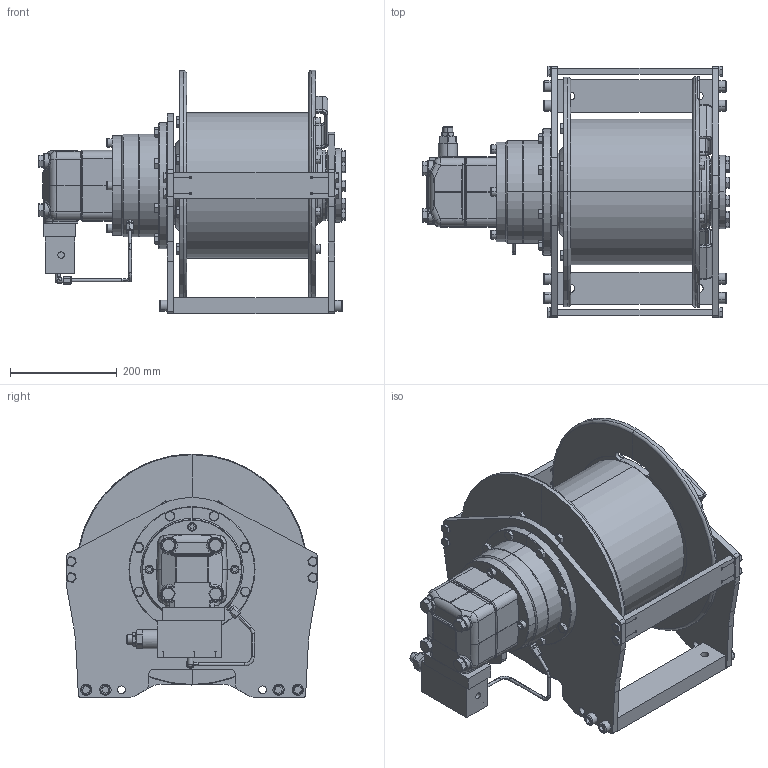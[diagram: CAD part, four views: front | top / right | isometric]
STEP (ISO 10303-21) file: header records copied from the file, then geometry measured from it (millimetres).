
FILE_DESCRIPTION((''),'2;1');
FILE_NAME('SE25-3_ASM','2012-11-21T',('Mattia'),(''),'PRO/ENGINEER BY PARAMETRIC TECHNOLOGY CORPORATION, 2006240','PRO/ENGINEER BY PARAMETRIC TECHNOLOGY CORPORATION, 2006240','');
FILE_SCHEMA(('CONFIG_CONTROL_DESIGN'));
Length unit declared in the file: millimetre
Products named in the file (68): __2714__55; __2742__57; __2756__58; __2770__59; __2784__60; __2798__61; __2812__62; BREP_8; BREP_9; BREP_10; BREP_11; BREP_12; BREP_13; BREP_14; BREP_15; BREP_16; __2574__45-746; __2574__45-747; __2574__45-748; __2574__45-749; __2574__45-750; __2574__45-751; __2574__45-752; __2574__45-753; __2574__45-754; __2574__45-755; BREP_27; BREP_28; __2070__9; __2182__17; __2490__39; __2504__40; __2518__41; __2532__42; __2056__8; __2434__35; __2448__36; __2462__37; __2476__38; BREP_40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
Assembly tree (67 placements, depth 3):
  SE25-3_ASM
    1_A_ASM
      __2714__55
      __2742__57
      __2756__58
      __2770__59
      __2784__60
      __2798__61
      __2812__62
      BREP_8
      BREP_9
      BREP_10
      BREP_11
      BREP_12
      BREP_13
      BREP_14
      BREP_15
      BREP_16
      __2574__45-746
      __2574__45-747
      __2574__45-748
      __2574__45-749
      __2574__45-750
      __2574__45-751
      __2574__45-752
      __2574__45-753
      __2574__45-754
      __2574__45-755
      BREP_27
      BREP_28
      __2070__9
      __2182__17
      __2490__39
      __2504__40
      __2518__41
      __2532__42
      __2056__8
      __2434__35
      __2448__36
      __2462__37
      __2476__38
      BREP_40
      BREP_41
      BREP_42
      BREP_43
      BREP_44
      BREP_45
      BREP_46
      BREP_47
      BREP_48
      BREP_49
      BREP_50
      BREP_51
      BREP_52
      BREP_53
      BREP_54
      BREP_55
      BREP_56
      BREP_57
      BREP_58
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Bounding box: 575.7 x 470.54 x 456 mm (x, y, z)
Volume: 25561216.1 mm3; surface area: 2201600.3 mm2
Topology: 65 solids, 80 shells, 2098 faces, 5232 edges, 3428 vertices
Faces by surface type: plane 903, cylinder 679, cone 229, torus 183, bspline 82, sphere 22
Entity records: 73750 total; most frequent: CARTESIAN_POINT 21021, DIRECTION 11446, ORIENTED_EDGE 10364, EDGE_CURVE 5228, AXIS2_PLACEMENT_3D 4609, VERTEX_POINT 3428, EDGE_LOOP 2426, CIRCLE 2392
